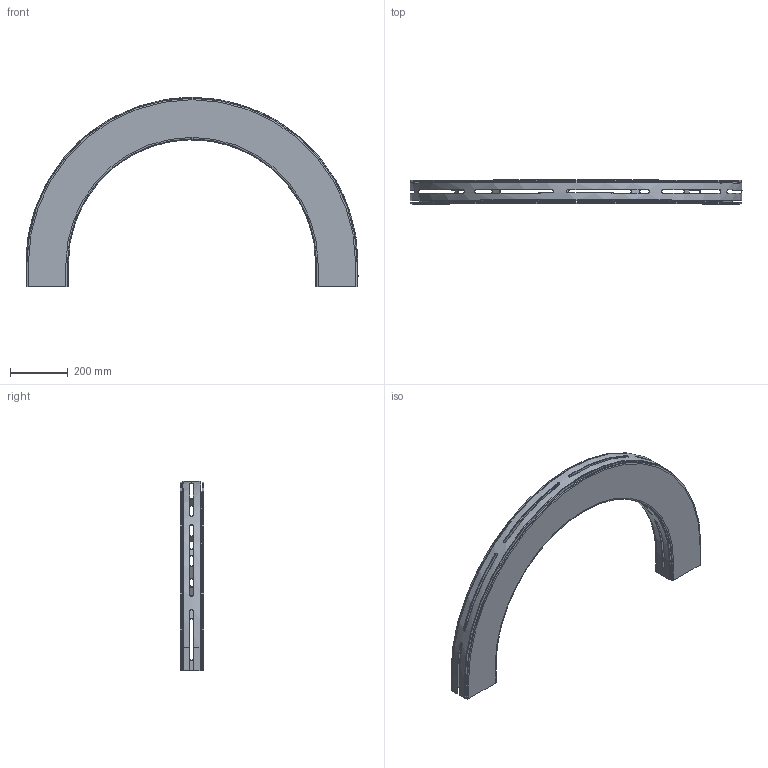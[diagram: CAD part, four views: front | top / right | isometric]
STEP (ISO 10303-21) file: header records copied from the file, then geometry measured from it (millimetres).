
FILE_DESCRIPTION((''),'2;1');
FILE_NAME('C:\Vault Klient\Projekt\Koncept konstruktion\Serie 540 Balk\540-5320.stp','2010-11-25T07:17:26',('Mathias'),(''),'Autodesk Inventor 2011','Autodesk Inventor 2011','');
FILE_SCHEMA(('AUTOMOTIVE_DESIGN { 1 0 10303 214 1 1 1 1 }'));
Length unit declared in the file: millimetre
Products named in the file (1): 540-5320
Bounding box: 1146 x 82 x 653 mm (x, y, z)
Volume: 3905597.5 mm3; surface area: 2005742.3 mm2
Topology: 2 solids, 2 shells, 195 faces, 554 edges, 364 vertices
Faces by surface type: plane 123, bspline 34, cylinder 28, cone 6, torus 4
Entity records: 7518 total; most frequent: CARTESIAN_POINT 2448, ORIENTED_EDGE 1108, DIRECTION 926, EDGE_CURVE 554, VECTOR 370, LINE 370, VERTEX_POINT 364, AXIS2_PLACEMENT_3D 278
